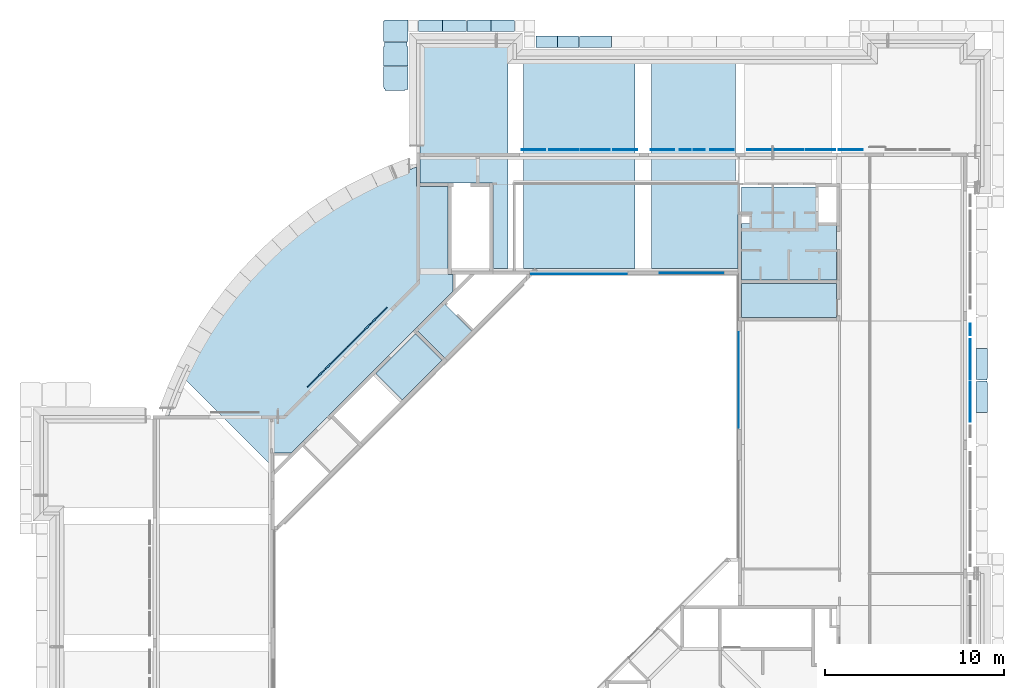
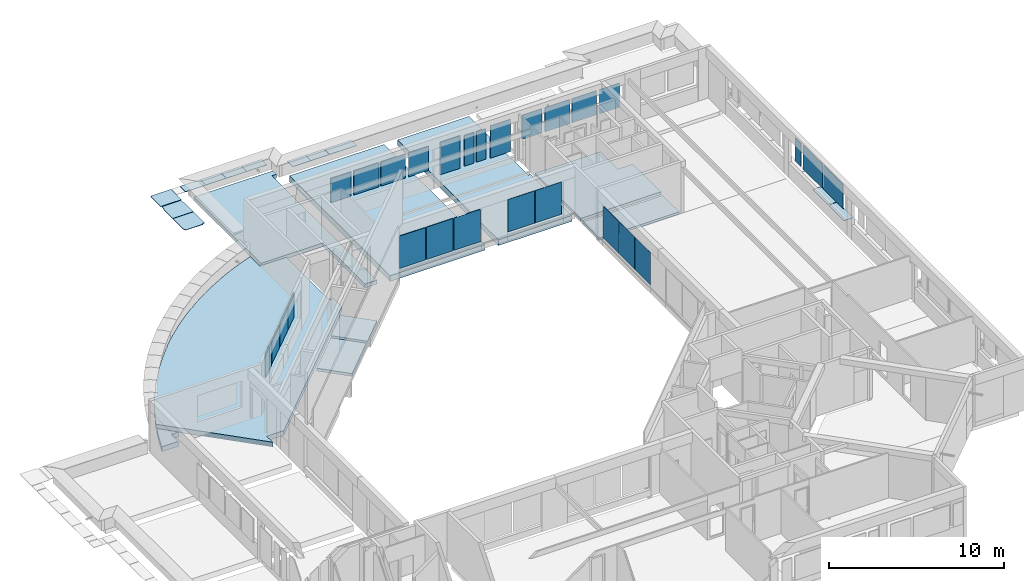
# One storey, part 6 of 38: 27 plates, 20 slabs.
"""IFC4X3_ADD2 building model written with IfcOpenShell, lengths in millimetres."""

from ifc_helpers import new_model, si_unit, point, direction, frame, frame_2d, origin_with_axes, origin_2d_with_axis, place, context, subcontext, project, spatial, polyline, circle_curve, trimmed, segment, composite_curve, rectangle, outline, extrude, source, transform, mapped, material, type_object, type_shapes, element, save


model = new_model("IFC4X3_ADD2")

# Units and contexts
model_context = context("Model", 3, precision=1e-05, world=origin_with_axes(), true_north=direction((0.0, 1.0)))
body_context = subcontext(model_context, "Body", "Model", "MODEL_VIEW")
ifc_project = project(units=[si_unit("LENGTHUNIT", "METRE", prefix="MILLI"), si_unit("AREAUNIT", "SQUARE_METRE"), si_unit("VOLUMEUNIT", "CUBIC_METRE"), si_unit("PLANEANGLEUNIT", "RADIAN"), si_unit("TIMEUNIT", "SECOND"), si_unit("MASSUNIT", "GRAM")], contexts=[model_context])

# Site, building, storey
site_placement = place(None, origin_with_axes())
site = spatial("IfcSite", under=ifc_project, at=site_placement, Name="Site", CompositionType="ELEMENT")
building_placement = place(site_placement, origin_with_axes())
building = spatial("IfcBuilding", under=site, at=building_placement, Name="IFC Building Story")
storey_placement = place(building_placement, frame((0.0, 0.0, 10800.0), z_axis=(0.0, 0.0, 1.0), x_axis=(1.0, 0.0, 0.0)))
storey = spatial("IfcBuildingStorey", under=building, at=storey_placement, Name="030", Elevation=10800.0)

# Slabs
ifc_material_1 = material(Name="BB_Beton_Bestaand")
slab_type_1 = type_object("IfcSlabType", Name="BB_Beton_Bestaand 200", PredefinedType="FLOOR", material=ifc_material_1)
slab_1_placement = place(storey_placement, frame((-12500.00406588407, 38300.00000000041, -280.0), z_axis=(0.0, 0.0, 1.0), x_axis=(1.0, 0.0, 0.0)))
element("IfcSlab", 1, at=slab_1_placement, inside=storey, type_object=slab_type_1, Name="Floor:BB_XX_Vloer uit beton, 200 mm", ObjectType="Floor:BB_XX_Vloer uit beton, 200 mm", PredefinedType="FLOOR", context=body_context, shape_type="SweptSolid", body=[
    extrude(outline(polyline([(3294.0024720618, 183.9999999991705), (3294.0024720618, -3015.999999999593), (-2006.00159382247, -3015.999999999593), (-2006.00159382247, 124.0000000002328), (-1576.001593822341, 124.0000000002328), (-1576.001593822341, 523.999999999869), (-2006.00159382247, 523.999999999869), (-2006.00159382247, 2184.000000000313), (2294.00230940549, 2184.000000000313), (2294.00230940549, 183.9999999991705), (3294.0024720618, 183.9999999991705)])), frame((2006.00159382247, 3015.999999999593, 0.0), z_axis=(0.0, 0.0, 1.0), x_axis=(1.0, 0.0, 0.0)), (0.0, 0.0, 1.0), 200.0),
])
slab_2_placement = place(storey_placement, frame((-30719.00667860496, 35293.98755288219, -400.0), z_axis=(0.0, 0.0, 1.0), x_axis=(-0.7071067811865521, -0.707106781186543, 0.0)))
element("IfcSlab", 2, at=slab_2_placement, inside=storey, type_object=slab_type_1, Name="Floor:BB_XX_Vloer uit beton, 200 mm", ObjectType="Floor:BB_XX_Vloer uit beton, 200 mm", PredefinedType="FLOOR", context=body_context, shape_type="SweptSolid", body=[
    extrude(rectangle(XDim=3139.999999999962, YDim=2099.99999999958, at=frame_2d((0.0, 0.0), x_axis=(-1.0, 0.0))), frame((1569.999999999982, 1049.999999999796, 0.0), z_axis=(0.0, 0.0, 1.0), x_axis=(1.0, 0.0, 0.0)), (0.0, 0.0, 1.0), 200.0),
])
slab_type_2 = type_object("IfcSlabType", Name="Floor_BB_XX_Vloer welfsels_ 330 mm", PredefinedType="NOTDEFINED")
shared_shape_1 = source(origin_with_axes(), body_context, "Body", "SweptSolid", [
    extrude(outline(composite_curve([segment(polyline([(7091.923637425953, 6394.445571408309), (7091.923637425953, 1489.445571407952)]), True, "CONTINUOUS"), segment(polyline([(7091.923637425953, 1489.445571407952), (7367.923637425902, 1489.445571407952)]), True, "CONTINUOUS"), segment(polyline([(7367.923637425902, 1489.445571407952), (7367.923637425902, 549.2114475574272)]), True, "CONTINUOUS"), segment(polyline([(7367.923637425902, 549.2114475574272), (5276.452492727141, -1542.259697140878)]), True, "CONTINUOUS"), segment(polyline([(5276.452492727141, -1542.259697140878), (5272.916958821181, -1538.724163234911)]), True, "CONTINUOUS"), segment(polyline([(5272.916958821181, -1538.724163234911), (415.09337206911, -6396.547749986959)]), True, "CONTINUOUS"), segment(polyline([(415.09337206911, -6396.547749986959), (418.6289059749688, -6400.083283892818)]), True, "CONTINUOUS"), segment(polyline([(418.6289059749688, -6400.083283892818), (-1672.842238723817, -8491.554428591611)]), True, "CONTINUOUS"), segment(polyline([(-1672.842238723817, -8491.554428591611), (-2803.076362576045, -8491.55442859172)]), True, "CONTINUOUS"), segment(polyline([(-2803.076362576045, -8491.55442859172), (-2803.076362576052, -9177.736914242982)]), True, "CONTINUOUS"), segment(polyline([(-2803.076362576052, -9177.736914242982), (-7688.585810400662, -4285.630606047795)]), True, "CONTINUOUS"), segment(trimmed(circle_curve(frame_2d((12475.07559123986, -13497.30118479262), x_axis=(1.0, 0.0)), 22168.17800296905), [point((-7688.585810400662, -4285.630606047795))], [point((-7440.211638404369, -3760.286727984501))], False, "CARTESIAN"), True, "CONTINUOUS"), segment(polyline([(-7440.211638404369, -3760.286727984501), (-7431.227910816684, -3764.67906661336)]), True, "CONTINUOUS"), segment(trimmed(circle_curve(frame_2d((12475.075591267, -13497.30118480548), x_axis=(1.0, 0.0)), 22158.17800299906), [point((-7431.227910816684, -3764.67906661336))], [point((-5654.15568041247, -756.9783509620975))], False, "CARTESIAN"), True, "CONTINUOUS"), segment(polyline([(-5654.15568041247, -756.9783509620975), (-5662.337414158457, -751.2286350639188)]), True, "CONTINUOUS"), segment(trimmed(circle_curve(frame_2d((12475.07559132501, -13497.30118484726), x_axis=(1.0, 0.0)), 22168.17800307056), [point((-5662.337414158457, -751.2286350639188))], [point((-5540.674575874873, -579.8377384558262))], False, "CARTESIAN"), True, "CONTINUOUS"), segment(polyline([(-5540.674575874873, -579.8377384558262), (-5532.547723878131, -585.664768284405)]), True, "CONTINUOUS"), segment(trimmed(circle_curve(frame_2d((12475.07559126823, -13497.3011848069), x_axis=(1.0, 0.0)), 22158.17800300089), [point((-5532.547723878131, -585.664768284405))], [point((-3285.836139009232, 2077.631041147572))], False, "CARTESIAN"), True, "CONTINUOUS"), segment(polyline([(-3285.836139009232, 2077.631041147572), (-3292.949048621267, 2084.66001808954)]), True, "CONTINUOUS"), segment(trimmed(circle_curve(frame_2d((12475.07559124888, -13497.30118478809), x_axis=(1.0, 0.0)), 22168.1780029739), [point((-3292.949048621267, 2084.66001808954))], [point((-359.2707413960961, 4577.755390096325))], False, "CARTESIAN"), True, "CONTINUOUS"), segment(polyline([(-359.2707413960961, 4577.755390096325), (-353.4812054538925, 4569.601785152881)]), True, "CONTINUOUS"), segment(trimmed(circle_curve(frame_2d((12475.07559126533, -13497.30118480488), x_axis=(1.0, 0.0)), 22158.17800299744), [point((-353.4812054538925, 4569.601785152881))], [point((2853.700588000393, 6463.009320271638))], False, "CARTESIAN"), True, "CONTINUOUS"), segment(polyline([(2853.700588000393, 6463.009320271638), (2849.358455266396, 6472.01742125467)]), True, "CONTINUOUS"), segment(trimmed(circle_curve(frame_2d((12475.08075018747, -13497.31188860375), x_axis=(1.0, 0.0)), 22168.18988516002), [point((2849.358455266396, 6472.01742125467))], [point((2850.580254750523, 6472.606313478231))], False, "CARTESIAN"), True, "CONTINUOUS"), segment(trimmed(circle_curve(frame_2d((12475.07559126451, -13497.301184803), x_axis=(1.0, 0.0)), 22168.17800299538), [point((2850.580254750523, 6472.606313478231))], [point((5331.923637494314, 7488.491536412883))], False, "CARTESIAN"), True, "CONTINUOUS"), segment(polyline([(5331.923637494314, 7488.491536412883), (5331.923637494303, 6394.445571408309)]), True, "CONTINUOUS"), segment(polyline([(5331.923637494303, 6394.445571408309), (7091.923637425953, 6394.445571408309)]), True, "CONTINUOUS")], self_intersect=False)), frame((-35991.92363742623, 37115.55442859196, -530.0), z_axis=(0.0, 0.0, 1.0), x_axis=(1.0, 0.0, 0.0)), (0.0, 0.0, 1.0), 330.0),
    extrude(outline(composite_curve([segment(polyline([(-20338.58884314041, 8818.725522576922), (-19411.01986444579, 7886.746756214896)]), True, "CONTINUOUS"), segment(polyline([(-19411.01986444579, 7886.746756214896), (-19913.15249216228, 7886.746756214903)]), True, "CONTINUOUS"), segment(polyline([(-19913.15249216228, 7886.746756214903), (-19913.15249216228, 7076.746756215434)]), True, "CONTINUOUS"), segment(polyline([(-19913.15249216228, 7076.746756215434), (-21008.278637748, 7076.746756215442)]), True, "CONTINUOUS"), segment(trimmed(circle_curve(origin_2d_with_axis(), 22168.17800300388), [point((-21008.278637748, 7076.746756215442))], [point((-20338.58884314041, 8818.725522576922))], False, "CARTESIAN"), True, "CONTINUOUS")], self_intersect=False)), frame((-23516.84804615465, 23618.25324378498, -530.0), z_axis=(0.0, 0.0, 1.0), x_axis=(1.0, 0.0, 0.0)), (0.0, 0.0, 1.0), 330.000000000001),
])
type_shapes(slab_type_2, [shared_shape_1])
slab_3_placement = place(storey_placement, origin_with_axes())
element("IfcSlab", 3, at=slab_3_placement, inside=storey, type_object=slab_type_2, material=ifc_material_1, Name="Floor:BB_XX_Vloer welfsels, 330 mm", ObjectType="Floor:BB_XX_Vloer welfsels, 330 mm", PredefinedType="FLOOR", context=body_context, shape_type="MappedRepresentation", body=[
    mapped(shared_shape_1, transform((0.0, 0.0, 0.0))),
])
slab_type_3 = type_object("IfcSlabType", Name="BB_Beton_Bestaand 400", PredefinedType="FLOOR", material=ifc_material_1)
slab_4_placement = place(storey_placement, frame((-24695.0000000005, 50454.99999999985, -600.0), z_axis=(0.0, 0.0, 1.0), x_axis=(0.0, -1.0, 0.0)))
element("IfcSlab", 4, at=slab_4_placement, inside=storey, type_object=slab_type_3, Name="Floor:BB_XX_Vloer welfsels, 400 mm", ObjectType="Floor:BB_XX_Vloer welfsels, 400 mm", PredefinedType="FLOOR", context=body_context, shape_type="SweptSolid", body=[
    extrude(rectangle(XDim=11509.99999999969, YDim=6245.000000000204, at=frame_2d((0.0, 0.0), x_axis=(-1.0, 0.0))), frame((5754.999999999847, 3122.500000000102, 0.0), z_axis=(0.0, 0.0, 1.0), x_axis=(1.0, 0.0, 0.0)), (0.0, 0.0, 1.0), 400.0),
])
slab_5_placement = place(storey_placement, frame((-17550.00000000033, 50454.99999999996, -600.0), z_axis=(0.0, 0.0, 1.0), x_axis=(0.0, -1.0, 0.0)))
element("IfcSlab", 5, at=slab_5_placement, inside=storey, type_object=slab_type_3, Name="Floor:BB_XX_Vloer welfsels, 400 mm", ObjectType="Floor:BB_XX_Vloer welfsels, 400 mm", PredefinedType="FLOOR", context=body_context, shape_type="SweptSolid", body=[
    extrude(outline(polyline([(673.3333333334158, 1666.663956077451), (5418.333333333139, 1666.663956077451), (5418.333333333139, -3183.331978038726), (-6091.666666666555, -3183.331978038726), (-6091.666666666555, 1516.668021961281), (673.3333333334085, 1516.668021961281), (673.3333333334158, 1666.663956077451)])), frame((6091.666666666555, 3183.331978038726, 0.0), z_axis=(0.0, 0.0, 1.0), x_axis=(1.0, 0.0, 0.0)), (0.0, 0.0, 1.0), 400.0),
])

# Plates
ifc_material_2 = material(Name="BB_Glas")
shared_shape_2 = source(origin_with_axes(), body_context, "Body", "SweptSolid", [
    extrude(rectangle(XDim=1602.000000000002, YDim=652.0000000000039, at=frame_2d((0.0, 0.0), x_axis=(0.0, 1.0))), frame((0.0, 0.0, -44.0), z_axis=(0.0, 0.0, 1.0), x_axis=(1.0, 0.0, 0.0)), (0.0, 0.0, 1.0), 44.0),
])
plate_1_placement = place(storey_placement, frame((287.500000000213, 35536.0, 1765.0), z_axis=(1.0, 0.0, 0.0), x_axis=(0.0, -1.0, 0.0)))
element("IfcPlate", 6, at=plate_1_placement, inside=storey, material=ifc_material_2, Name="BB_07.06_Buitenbeglazing, rechthoekig_GMO:07.06.72#01_Drievoudige beglazing, 44 mm, A/A*/A", ObjectType="BB_07.06_Buitenbeglazing, rechthoekig_GMO:07.06.72#01_Drievoudige beglazing, 44 mm, A/A*/A", PredefinedType="USERDEFINED", context=body_context, shape_type="MappedRepresentation", body=[
    mapped(shared_shape_2, transform((0.0, 0.0, 0.0))),
])
shared_shape_3 = source(origin_with_axes(), body_context, "Body", "SweptSolid", [
    extrude(rectangle(XDim=2222.0, YDim=1680.000000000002, at=origin_2d_with_axis()), frame((0.0, 0.0, -44.0), z_axis=(0.0, 0.0, 1.0), x_axis=(1.0, 0.0, 0.0)), (0.0, 0.0, 1.0), 44.0),
])
for number, where, z_axis, x_axis in (
    (7, (287.500000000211, 33861.0, 1765.0), (1.0, 0.0, 0.0), (0.0, -1.0, 0.0)),
    (8, (287.500000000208, 31499.0, 1765.0), (1.0, 0.0, 0.0), (0.0, -1.0, 0.0)),
):
    element("IfcPlate", number, at=place(storey_placement, frame(where, z_axis=z_axis, x_axis=x_axis)), inside=storey, material=ifc_material_2, Name="BB_07.06_Buitenbeglazing, rechthoekig_GMO:07.06.72#01_Drievoudige beglazing, 44 mm, A/A*/A", ObjectType="BB_07.06_Buitenbeglazing, rechthoekig_GMO:07.06.72#01_Drievoudige beglazing, 44 mm, A/A*/A", PredefinedType="USERDEFINED", context=body_context, shape_type="MappedRepresentation", body=[
        mapped(shared_shape_3, transform((0.0, 0.0, 0.0))),
    ])
shared_shape_4 = source(origin_with_axes(), body_context, "Body", "SweptSolid", [
    extrude(rectangle(XDim=2256.0, YDim=1736.000000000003, at=frame_2d((0.0, 0.0), x_axis=(0.0, 1.0))), frame((0.0, 0.0, -17.0), z_axis=(0.0, 0.0, 1.0), x_axis=(1.0, 0.0, 0.0)), (0.0, 0.0, 1.0), 17.0),
])
for number, where, z_axis, x_axis in (
    (9, (-12671.5040658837, 32700.0, 1475.0), (-1.0, 0.0, 0.0), (0.0, 1.0, 0.0)),
    (10, (-12671.5040658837, 30900.0, 1475.0), (-1.0, 0.0, 0.0), (0.0, 1.0, 0.0)),
    (11, (-21600.0, 38628.5000000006, 1475.0), (0.0, -1.0, 0.0), (-1.0, 0.0, 0.0)),
    (12, (-19800.0, 38628.5000000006, 1475.0), (0.0, -1.0, 0.0), (-1.0, 0.0, 0.0)),
    (13, (-12671.5040658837, 34500.0, 1475.0), (-1.0, 0.0, 0.0), (0.0, 1.0, 0.0)),
    (14, (-23400.0, 38628.5000000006, 1475.0), (0.0, -1.0, 0.0), (-1.0, 0.0, 0.0)),
    (15, (-16200.0, 38679.0, 1475.0), (0.0, -1.0, 0.0), (-1.0, 0.0, 0.0)),
    (16, (-14400.0, 38679.0, 1475.0), (0.0, -1.0, 0.0), (-1.0, 0.0, 0.0)),
):
    element("IfcPlate", number, at=place(storey_placement, frame(where, z_axis=z_axis, x_axis=x_axis)), inside=storey, material=ifc_material_2, Name="BB_10.10_Binnenbeglazing, rechthoekig_GMO:10.10.41#02_Enkelvoudige beglazing, 2B2, EI30, 40dB", ObjectType="BB_10.10_Binnenbeglazing, rechthoekig_GMO:10.10.41#02_Enkelvoudige beglazing, 2B2, EI30, 40dB", PredefinedType="USERDEFINED", context=body_context, shape_type="MappedRepresentation", body=[
        mapped(shared_shape_4, transform((0.0, 0.0, 0.0))),
    ])
shared_shape_5 = source(origin_with_axes(), body_context, "Body", "SweptSolid", [
    extrude(rectangle(XDim=1680.000000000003, YDim=1320.000000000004, at=frame_2d((0.0, 0.0), x_axis=(0.0, 1.0))), frame((0.0, 0.0, -44.0), z_axis=(0.0, 0.0, 1.0), x_axis=(1.0, 0.0, 0.0)), (0.0, 0.0, 1.0), 44.0),
])
for number, where, z_axis, x_axis in (
    (17, (-11525.0, 45587.5000000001, 1765.0), (0.0, 1.0, 0.0), (1.0, 0.0, 0.0)),
    (18, (-6405.0, 45587.5, 1765.0), (0.0, 1.0, 0.0), (1.0, 0.0, 0.0)),
    (19, (-24125.0, 45587.5000000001, 1765.0), (0.0, 1.0, 0.0), (1.0, 0.0, 0.0)),
    (20, (-19005.0, 45587.5000000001, 1765.0), (0.0, 1.0, 0.0), (1.0, 0.0, 0.0)),
):
    element("IfcPlate", number, at=place(storey_placement, frame(where, z_axis=z_axis, x_axis=x_axis)), inside=storey, material=ifc_material_2, Name="BB_07.06_Buitenbeglazing, rechthoekig_GMO:07.06.72#01_Drievoudige beglazing, 44 mm, A/A*/A", ObjectType="BB_07.06_Buitenbeglazing, rechthoekig_GMO:07.06.72#01_Drievoudige beglazing, 44 mm, A/A*/A", PredefinedType="USERDEFINED", context=body_context, shape_type="MappedRepresentation", body=[
        mapped(shared_shape_5, transform((0.0, 0.0, 0.0))),
    ])
shared_shape_6 = source(origin_with_axes(), body_context, "Body", "SweptSolid", [
    extrude(rectangle(XDim=1680.000000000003, YDim=1630.000000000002, at=frame_2d((0.0, 0.0), x_axis=(0.0, 1.0))), frame((0.0, 0.0, -44.0), z_axis=(0.0, 0.0, 1.0), x_axis=(1.0, 0.0, 0.0)), (0.0, 0.0, 1.0), 44.0),
])
for number, where, z_axis, x_axis in (
    (21, (-9850.0, 45587.5000000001, 1765.0), (0.0, 1.0, 0.0), (1.0, 0.0, 0.0)),
    (22, (-8080.0, 45587.5, 1765.0), (0.0, 1.0, 0.0), (1.0, 0.0, 0.0)),
    (23, (-22450.0, 45587.5000000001, 1765.0), (0.0, 1.0, 0.0), (1.0, 0.0, 0.0)),
    (24, (-20680.0, 45587.5000000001, 1765.0), (0.0, 1.0, 0.0), (1.0, 0.0, 0.0)),
):
    element("IfcPlate", number, at=place(storey_placement, frame(where, z_axis=z_axis, x_axis=x_axis)), inside=storey, material=ifc_material_2, Name="BB_07.06_Buitenbeglazing, rechthoekig_GMO:07.06.72#01_Drievoudige beglazing, 44 mm, A/A*/A", ObjectType="BB_07.06_Buitenbeglazing, rechthoekig_GMO:07.06.72#01_Drievoudige beglazing, 44 mm, A/A*/A", PredefinedType="USERDEFINED", context=body_context, shape_type="MappedRepresentation", body=[
        mapped(shared_shape_6, transform((0.0, 0.0, 0.0))),
    ])
shared_shape_7 = source(origin_with_axes(), body_context, "Body", "SweptSolid", [
    extrude(rectangle(XDim=2260.0, YDim=1320.000000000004, at=frame_2d((0.0, 0.0), x_axis=(0.0, 1.0))), frame((0.0, 0.0, -44.0), z_axis=(0.0, 0.0, 1.0), x_axis=(1.0, 0.0, 0.0)), (0.0, 0.0, 1.0), 44.0),
])
for number, where, z_axis, x_axis in (
    (25, (-16925.0, 45587.5000000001, 1475.0), (0.0, 1.0, 0.0), (1.0, 0.0, 0.0)),
    (26, (-13605.0, 45587.5000000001, 1475.0), (0.0, 1.0, 0.0), (1.0, 0.0, 0.0)),
):
    element("IfcPlate", number, at=place(storey_placement, frame(where, z_axis=z_axis, x_axis=x_axis)), inside=storey, material=ifc_material_2, Name="BB_07.06_Buitenbeglazing, rechthoekig_GMO:07.06.72#03_Drievoudige beglazing, 44 mm, A/A*/2B2, deuren terrassen", ObjectType="BB_07.06_Buitenbeglazing, rechthoekig_GMO:07.06.72#03_Drievoudige beglazing, 44 mm, A/A*/2B2, deuren terrassen", PredefinedType="USERDEFINED", context=body_context, shape_type="MappedRepresentation", body=[
        mapped(shared_shape_7, transform((0.0, 0.0, 0.0))),
    ])
shared_shape_8 = source(origin_with_axes(), body_context, "Body", "SweptSolid", [
    extrude(rectangle(XDim=2124.5, YDim=635.000000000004, at=frame_2d((0.0, 0.0), x_axis=(0.0, 1.0))), frame((0.0, 0.0, -44.0), z_axis=(0.0, 0.0, 1.0), x_axis=(1.0, 0.0, 0.0)), (0.0, 0.0, 1.0), 44.0),
])
for number, where, z_axis, x_axis in (
    (27, (-15656.4999999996, 45587.5000000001, 1452.25), (0.0, 1.0, 0.0), (1.0, 0.0, 0.0)),
    (28, (-14873.4999999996, 45587.5000000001, 1452.25), (0.0, 1.0, 0.0), (1.0, 0.0, 0.0)),
):
    element("IfcPlate", number, at=place(storey_placement, frame(where, z_axis=z_axis, x_axis=x_axis)), inside=storey, material=ifc_material_2, Name="BB_07.06_Buitenbeglazing, rechthoekig_GMO:07.06.72#03_Drievoudige beglazing, 44 mm, A/A*/2B2, deuren terrassen", ObjectType="BB_07.06_Buitenbeglazing, rechthoekig_GMO:07.06.72#03_Drievoudige beglazing, 44 mm, A/A*/2B2, deuren terrassen", PredefinedType="USERDEFINED", context=body_context, shape_type="MappedRepresentation", body=[
        mapped(shared_shape_8, transform((0.0, 0.0, 0.0))),
    ])
shared_shape_9 = source(origin_with_axes(), body_context, "Body", "SweptSolid", [
    extrude(rectangle(XDim=1718.000000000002, YDim=1304.000000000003, at=frame_2d((0.0, 0.0), x_axis=(0.0, 1.0))), frame((0.0, 0.0, -44.0), z_axis=(0.0, 0.0, 1.0), x_axis=(1.0, 0.0, 0.0)), (0.0, 0.0, 1.0), 44.0),
])
for number, where, z_axis, x_axis in (
    (29, (-32800.6763432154, 36305.9100559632, 1784.0), (-0.7071067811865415, 0.7071067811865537, 0.0), (-0.7071067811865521, -0.707106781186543, 0.0)),
    (30, (-36305.0975507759, 32801.4888484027, 1784.0), (-0.7071067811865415, 0.7071067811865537, 0.0), (-0.7071067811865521, -0.707106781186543, 0.0)),
):
    element("IfcPlate", number, at=place(storey_placement, frame(where, z_axis=z_axis, x_axis=x_axis)), inside=storey, material=ifc_material_2, Name="BB_07.06_Buitenbeglazing, rechthoekig_GMO:07.06.72#01_Drievoudige beglazing, 44 mm, A/A*/A", ObjectType="BB_07.06_Buitenbeglazing, rechthoekig_GMO:07.06.72#01_Drievoudige beglazing, 44 mm, A/A*/A", PredefinedType="USERDEFINED", context=body_context, shape_type="MappedRepresentation", body=[
        mapped(shared_shape_9, transform((0.0, 0.0, 0.0))),
    ])
shared_shape_10 = source(origin_with_axes(), body_context, "Body", "SweptSolid", [
    extrude(rectangle(XDim=1748.000000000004, YDim=1718.000000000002, at=origin_2d_with_axis()), frame((0.0, 0.0, -44.0), z_axis=(0.0, 0.0, 1.0), x_axis=(1.0, 0.0, 0.0)), (0.0, 0.0, 1.0), 44.0),
])
plate_2_placement = place(storey_placement, frame((-33916.4908439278, 35190.0955552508, 1784.0), z_axis=(-0.7071067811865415, 0.7071067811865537, 0.0), x_axis=(-0.7071067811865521, -0.707106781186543, 0.0)))
element("IfcPlate", 31, at=plate_2_placement, inside=storey, material=ifc_material_2, Name="BB_07.06_Buitenbeglazing, rechthoekig_GMO:07.06.72#01_Drievoudige beglazing, 44 mm, A/A*/A", ObjectType="BB_07.06_Buitenbeglazing, rechthoekig_GMO:07.06.72#01_Drievoudige beglazing, 44 mm, A/A*/A", PredefinedType="USERDEFINED", context=body_context, shape_type="MappedRepresentation", body=[
    mapped(shared_shape_10, transform((0.0, 0.0, 0.0))),
])
shared_shape_11 = source(origin_with_axes(), body_context, "Body", "SweptSolid", [
    extrude(rectangle(XDim=1670.000000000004, YDim=1640.000000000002, at=origin_2d_with_axis()), frame((0.0, 0.0, -44.0), z_axis=(0.0, 0.0, 1.0), x_axis=(1.0, 0.0, 0.0)), (0.0, 0.0, 1.0), 44.0),
])
plate_3_placement = place(storey_placement, frame((-35189.2830500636, 33917.303349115, 1784.0), z_axis=(-0.7071067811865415, 0.7071067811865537, 0.0), x_axis=(-0.7071067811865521, -0.707106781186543, 0.0)))
element("IfcPlate", 32, at=plate_3_placement, inside=storey, material=ifc_material_2, Name="BB_07.06_Buitenbeglazing, rechthoekig_GMO:07.06.72#01_Drievoudige beglazing, 44 mm, A/A*/A", ObjectType="BB_07.06_Buitenbeglazing, rechthoekig_GMO:07.06.72#01_Drievoudige beglazing, 44 mm, A/A*/A", PredefinedType="USERDEFINED", context=body_context, shape_type="MappedRepresentation", body=[
    mapped(shared_shape_11, transform((0.0, 0.0, 0.0))),
])

# Slabs
slab_type_4 = type_object("IfcSlabType", Name="BB_Beton_Bestaand 260", PredefinedType="FLOOR", material=ifc_material_1)
slab_6_placement = place(storey_placement, frame((-30470.00000000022, 51355.00000000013, -459.9999999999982), z_axis=(0.0, 0.0, 1.0), x_axis=(0.0, -1.0, 0.0)))
element("IfcSlab", 33, at=slab_6_placement, inside=storey, type_object=slab_type_4, Name="Floor:BB_XX_Vloer welfsels, 260 mm", ObjectType="Floor:BB_XX_Vloer welfsels, 260 mm", PredefinedType="FLOOR", context=body_context, shape_type="SweptSolid", body=[
    extrude(outline(polyline([(7291.249999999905, 548.7500000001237), (2536.249999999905, 548.7500000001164), (2536.249999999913, -3556.249999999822), (-5118.749999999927, -3556.249999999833), (-5118.749999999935, 1653.749999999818), (-4708.749999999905, 1653.749999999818), (-4708.749999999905, 1353.749999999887), (7291.249999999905, 1353.749999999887), (7291.249999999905, 548.7500000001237)])), frame((5118.749999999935, 3556.249999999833, 0.0), z_axis=(0.0, 0.0, 1.0), x_axis=(1.0, 0.0, 0.0)), (0.0, 0.0, 1.0), 259.999999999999),
])
slab_type_5 = type_object("IfcSlabType", Name="BB_Beton_Bestaand 150", PredefinedType="FLOOR", material=ifc_material_1)
slab_7_placement = place(storey_placement, frame((-12500.00406588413, 36199.99999999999, -350.0000000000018), z_axis=(0.0, 0.0, 1.0), x_axis=(1.0, 0.0, 0.0)))
element("IfcSlab", 34, at=slab_7_placement, inside=storey, type_object=slab_type_5, Name="Floor:BB_XX_Vloer uit beton, 150 mm", ObjectType="Floor:BB_XX_Vloer uit beton, 150 mm", PredefinedType="FLOOR", context=body_context, shape_type="SweptSolid", body=[
    extrude(rectangle(XDim=5300.004065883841, YDim=1900.000000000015, at=origin_2d_with_axis()), frame((2650.00203294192, 950.0000000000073, 0.0), z_axis=(0.0, 0.0, 1.0), x_axis=(1.0, 0.0, 0.0)), (0.0, 0.0, 1.0), 150.000000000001),
])
slab_8_placement = place(storey_placement, frame((-30611.88000125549, 35469.70358800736, -350.0), z_axis=(0.0, 0.0, 1.0), x_axis=(0.7071067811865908, -0.7071067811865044, 0.0)))
element("IfcSlab", 35, at=slab_8_placement, inside=storey, type_object=slab_type_5, Name="Floor:BB_XX_Vloer uit beton, 150 mm", ObjectType="Floor:BB_XX_Vloer uit beton, 150 mm", PredefinedType="FLOOR", context=body_context, shape_type="SweptSolid", body=[
    extrude(rectangle(XDim=2158.526617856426, YDim=2130.000000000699, at=frame_2d((0.0, 0.0), x_axis=(-1.0, 0.0))), frame((1079.263308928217, 1065.000000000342, 0.0), z_axis=(0.0, 0.0, 1.0), x_axis=(1.0, 0.0, 0.0)), (0.0, 0.0, 1.0), 150.000000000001),
])
ifc_material_3 = material(Name="Steel, Galvanized - looprooster")
slab_type_6 = type_object("IfcSlabType", Name="Steel, Galvanized - looprooster 30", PredefinedType="FLOOR", material=ifc_material_3)
slab_9_placement = place(storey_placement, frame((-32510.00048070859, 51619.0012588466, -350.0), z_axis=(0.0, 0.0, 1.0), x_axis=(1.0, 0.0, 0.0)))
element("IfcSlab", 36, at=slab_9_placement, inside=storey, type_object=slab_type_6, Name="Floor:GVH - Looprooster 30 mm", ObjectType="Floor:GVH - Looprooster 30 mm", PredefinedType="FLOOR", context=body_context, shape_type="SweptSolid", body=[
    extrude(outline(polyline([(888.3333333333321, 415.3318335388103), (888.3333333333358, -785.6653054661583), (-466.6666666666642, -785.6653054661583), (-466.6666666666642, 370.333471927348), (-421.6666666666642, 370.333471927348), (-421.6666666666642, 415.331833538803), (888.3333333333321, 415.3318335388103)])), frame((466.6666666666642, 785.6653054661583, 0.0), z_axis=(0.0, 0.0, 1.0), x_axis=(1.0, 0.0, 0.0)), (0.0, 0.0, 1.0), 29.99999999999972),
])
slab_10_placement = place(storey_placement, frame((-32510.00048070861, 50245.00203624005, -350.0), z_axis=(0.0, 0.0, 1.0), x_axis=(1.0, 0.0, 0.0)))
element("IfcSlab", 37, at=slab_10_placement, inside=storey, type_object=slab_type_6, Name="Floor:GVH - Looprooster 30 mm", ObjectType="Floor:GVH - Looprooster 30 mm", PredefinedType="FLOOR", context=body_context, shape_type="SweptSolid", body=[
    extrude(outline(polyline([(677.5005136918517, 208.9998056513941), (677.5005136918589, -876.9994169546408), (-677.4994863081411, -876.9994169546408), (-677.4994863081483, 208.9998056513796), (-632.4994863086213, 208.9998056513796), (-632.4994863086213, 458.9998056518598), (632.498458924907, 458.9998056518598), (632.498458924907, 208.9998056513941), (677.5005136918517, 208.9998056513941)])), frame((677.4994863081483, 876.9994169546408, 0.0), z_axis=(0.0, 0.0, 1.0), x_axis=(1.0, 0.0, 0.0)), (0.0, 0.0, 1.0), 29.99999999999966),
])
slab_11_placement = place(storey_placement, frame((-32510.00048070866, 48885.00003624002, -350.0), z_axis=(0.0, 0.0, 1.0), x_axis=(1.0, 0.0, 0.0)))
element("IfcSlab", 38, at=slab_11_placement, inside=storey, type_object=slab_type_6, Name="Floor:GVH - Looprooster 30 mm", ObjectType="Floor:GVH - Looprooster 30 mm", PredefinedType="FLOOR", context=body_context, shape_type="SweptSolid", body=[
    extrude(outline(polyline([(-515.999900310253, -254.6005338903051), (-515.999900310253, -169.6005338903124), (-530.9999003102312, -169.6005338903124), (-530.9999003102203, 1018.402688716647), (824.0000996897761, 1018.402688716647), (824.0000996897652, -264.6010870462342), (678.9996012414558, -264.6010870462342), (678.9996012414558, -329.6005338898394), (-455.9999003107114, -329.6005338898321), (-455.9999003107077, -254.6005338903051), (-515.999900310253, -254.6005338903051)])), frame((530.9999003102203, 329.6005338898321, 0.0), z_axis=(0.0, 0.0, 1.0), x_axis=(1.0, 0.0, 0.0)), (0.0, 0.0, 1.0), 29.99999999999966),
])
slab_12_placement = place(storey_placement, frame((-29214.99796376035, 52189.99839785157, -350.0), z_axis=(0.0, 0.0, 1.0), x_axis=(1.0, 0.0, 0.0)))
element("IfcSlab", 39, at=slab_12_placement, inside=storey, type_object=slab_type_6, Name="Floor:GVH - Looprooster 30 mm", ObjectType="Floor:GVH - Looprooster 30 mm", PredefinedType="FLOOR", context=body_context, shape_type="SweptSolid", body=[
    extrude(outline(polyline([(473.9993333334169, 200.0009733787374), (473.9993333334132, -415.0007667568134), (-860.99866666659, -415.0007667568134), (-860.9986666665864, 214.9997933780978), (386.9993333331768, 214.9997933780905), (386.9993333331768, 200.0009733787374), (473.9993333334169, 200.0009733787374)])), frame((860.9986666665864, 415.0007667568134, 0.0), z_axis=(0.0, 0.0, 1.0), x_axis=(1.0, 0.0, 0.0)), (0.0, 0.0, 1.0), 29.99999999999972),
])
slab_13_placement = place(storey_placement, frame((-22786.79233097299, 51289.99784916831, -350.0), z_axis=(0.0, 0.0, 1.0), x_axis=(1.0, 0.0, 0.0)))
element("IfcSlab", 40, at=slab_13_placement, inside=storey, type_object=slab_type_6, Name="Floor:GVH - Looprooster 30 mm", ObjectType="Floor:GVH - Looprooster 30 mm", PredefinedType="FLOOR", context=body_context, shape_type="SweptSolid", body=[
    extrude(outline(polyline([(419.6625422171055, 200.0015258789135), (419.6625422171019, -415.0007629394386), (-787.2274184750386, -415.0007629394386), (-787.2274184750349, 214.9992370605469), (367.5648762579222, 214.9992370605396), (367.5648762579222, 200.0015258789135), (419.6625422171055, 200.0015258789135)])), frame((787.2274184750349, 415.0007629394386, 0.0), z_axis=(0.0, 0.0, 1.0), x_axis=(1.0, 0.0, 0.0)), (0.0, 0.0, 1.0), 29.99999999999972),
])
slab_14_placement = place(storey_placement, frame((-30549.99996376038, 52189.99839785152, -350.0), z_axis=(0.0, 0.0, 1.0), x_axis=(1.0, 0.0, 0.0)))
element("IfcSlab", 41, at=slab_14_placement, inside=storey, type_object=slab_type_6, Name="Floor:GVH - Looprooster 30 mm", ObjectType="Floor:GVH - Looprooster 30 mm", PredefinedType="FLOOR", context=body_context, shape_type="SweptSolid", body=[
    extrude(outline(polyline([(872.6680634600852, 214.9992370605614), (872.6680634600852, -415.0007629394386), (-462.3339365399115, -415.0007629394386), (-462.3339365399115, 200.0015258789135), (-410.3341269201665, 200.0015258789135), (-410.3341269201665, 214.9992370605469), (872.6680634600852, 214.9992370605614)])), frame((462.3339365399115, 415.0007629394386, 0.0), z_axis=(0.0, 0.0, 1.0), x_axis=(1.0, 0.0, 0.0)), (0.0, 0.0, 1.0), 29.99999999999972),
])
slab_15_placement = place(storey_placement, frame((-27849.99996376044, 52189.99839785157, -350.0), z_axis=(0.0, 0.0, 1.0), x_axis=(1.0, 0.0, 0.0)))
element("IfcSlab", 42, at=slab_15_placement, inside=storey, type_object=slab_type_6, Name="Floor:GVH - Looprooster 30 mm", ObjectType="Floor:GVH - Looprooster 30 mm", PredefinedType="FLOOR", context=body_context, shape_type="SweptSolid", body=[
    extrude(outline(polyline([(860.9986666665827, 214.9997933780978), (860.9986666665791, -415.0007667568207), (-473.9993333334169, -415.0007667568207), (-473.9993333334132, 200.0009733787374), (-386.9993333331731, 200.0009733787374), (-386.9993333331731, 214.9997933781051), (860.9986666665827, 214.9997933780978)])), frame((473.9993333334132, 415.0007667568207, 0.0), z_axis=(0.0, 0.0, 1.0), x_axis=(1.0, 0.0, 0.0)), (0.0, 0.0, 1.0), 29.99999999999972),
])
slab_16_placement = place(storey_placement, frame((-26514.4979637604, 52189.99783771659, -350.0), z_axis=(0.0, 0.0, 1.0), x_axis=(1.0, 0.0, 0.0)))
element("IfcSlab", 43, at=slab_16_placement, inside=storey, type_object=slab_type_6, Name="Floor:GVH - Looprooster 30 mm", ObjectType="Floor:GVH - Looprooster 30 mm", PredefinedType="FLOOR", context=body_context, shape_type="SweptSolid", body=[
    extrude(outline(polyline([(462.1627324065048, 200.0009733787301), (462.1627324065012, -415.0007667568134), (-872.3352675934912, -415.0007667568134), (-872.3352675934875, 214.9997933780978), (410.1725351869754, 214.9997933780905), (410.1725351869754, 200.0009733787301), (462.1627324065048, 200.0009733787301)])), frame((872.3352675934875, 415.0007667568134, 0.0), z_axis=(0.0, 0.0, 1.0), x_axis=(1.0, 0.0, 0.0)), (0.0, 0.0, 1.0), 29.99999999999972),
])
slab_17_placement = place(storey_placement, frame((-21549.90237028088, 51289.99784916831, -350.0), z_axis=(0.0, 0.0, 1.0), x_axis=(1.0, 0.0, 0.0)))
element("IfcSlab", 44, at=slab_17_placement, inside=storey, type_object=slab_type_6, Name="Floor:GVH - Looprooster 30 mm", ObjectType="Floor:GVH - Looprooster 30 mm", PredefinedType="FLOOR", context=body_context, shape_type="SweptSolid", body=[
    extrude(outline(polyline([(1172.769914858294, 214.9992370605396), (1172.769914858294, -415.0007629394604), (-612.336124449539, -415.0007629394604), (-612.336124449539, 200.001525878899), (-560.4337904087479, 200.001525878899), (-560.4337904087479, 214.9992370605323), (1172.769914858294, 214.9992370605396)])), frame((612.336124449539, 415.0007629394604, 0.0), z_axis=(0.0, 0.0, 1.0), x_axis=(1.0, 0.0, 0.0)), (0.0, 0.0, 1.0), 29.99999999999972),
])
slab_18_placement = place(storey_placement, frame((-23996.0012588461, 51289.9983978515, -350.0), z_axis=(0.0, 0.0, 1.0), x_axis=(1.0, 0.0, 0.0)))
element("IfcSlab", 45, at=slab_18_placement, inside=storey, type_object=slab_type_6, Name="Floor:GVH - Looprooster 30 mm", ObjectType="Floor:GVH - Looprooster 30 mm", PredefinedType="FLOOR", context=body_context, shape_type="SweptSolid", body=[
    extrude(rectangle(XDim=1207.998000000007, YDim=629.9999999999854, at=origin_2d_with_axis()), frame((603.9990000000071, 314.9999999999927, 0.0), z_axis=(0.0, 0.0, 1.0), x_axis=(1.0, 0.0, 0.0)), (0.0, 0.0, 1.0), 29.99999999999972),
])
slab_19_placement = place(storey_placement, frame((589.998733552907, 32664.99996376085, -350.0), z_axis=(0.0, 0.0, 1.0), x_axis=(0.0, -1.0, 0.0)))
element("IfcSlab", 46, at=slab_19_placement, inside=storey, type_object=slab_type_6, Name="Floor:GVH - Looprooster 30 mm", ObjectType="Floor:GVH - Looprooster 30 mm", PredefinedType="FLOOR", context=body_context, shape_type="SweptSolid", body=[
    extrude(outline(polyline([(-394.3745000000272, 282.499218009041), (1304.123500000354, 282.499218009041), (1304.123500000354, -347.5004386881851), (-428.8745000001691, -347.5004386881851), (-428.8745000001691, -202.4983406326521), (-480.8745000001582, -202.4983406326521), (-480.8745000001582, 267.4995613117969), (-394.3745000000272, 267.499561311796), (-394.3745000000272, 282.499218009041)])), frame((480.8745000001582, 347.5004386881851, 0.0), z_axis=(0.0, 0.0, 1.0), x_axis=(1.0, 0.0, 0.0)), (0.0, 0.0, 1.0), 29.99999999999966),
])
slab_20_placement = place(storey_placement, frame((589.998741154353, 34479.49796376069, -350.0), z_axis=(0.0, 0.0, 1.0), x_axis=(0.0, -1.0, 0.0)))
element("IfcSlab", 47, at=slab_20_placement, inside=storey, type_object=slab_type_6, Name="Floor:GVH - Looprooster 30 mm", ObjectType="Floor:GVH - Looprooster 30 mm", PredefinedType="FLOOR", context=body_context, shape_type="SweptSolid", body=[
    extrude(outline(polyline([(480.8744637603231, -202.4983406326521), (428.8745362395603, -202.4983406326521), (428.8745362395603, -347.5004386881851), (-1303.623463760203, -347.5004386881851), (-1303.623463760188, 282.4992180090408), (393.8744637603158, 282.4992180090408), (393.8744637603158, 267.4995613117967), (480.8744637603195, 267.4995613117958), (480.8744637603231, -202.4983406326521)])), frame((1303.623463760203, 347.5004386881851, 0.0), z_axis=(0.0, 0.0, 1.0), x_axis=(1.0, 0.0, 0.0)), (0.0, 0.0, 1.0), 29.99999999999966),
])

save(model, "model.ifc")
